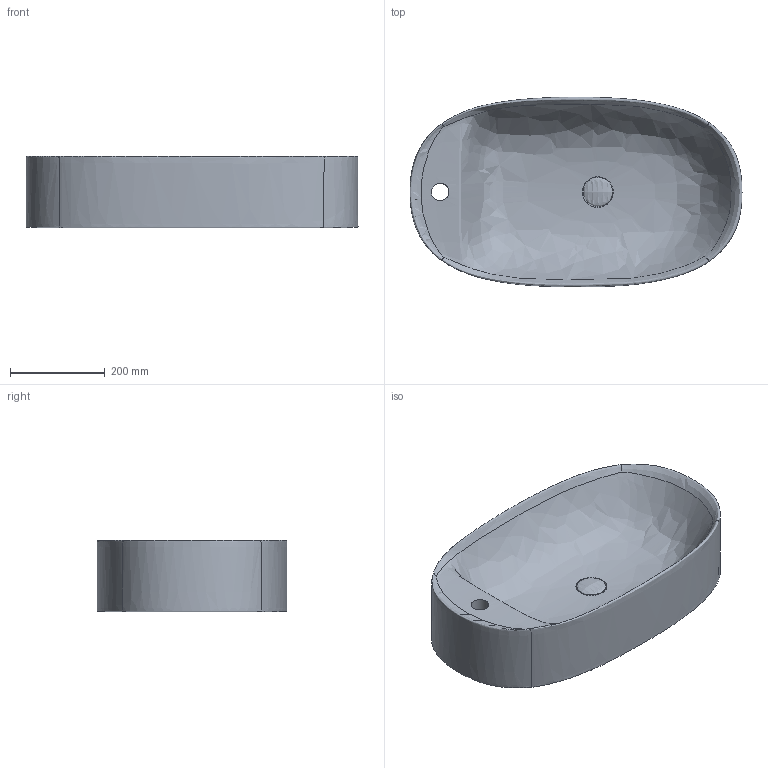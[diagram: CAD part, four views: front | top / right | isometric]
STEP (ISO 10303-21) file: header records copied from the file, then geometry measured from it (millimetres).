
FILE_DESCRIPTION(/* description */ (''),/* implementation_level */ '2;1');
FILE_NAME(/* name */ 'ART540~1',/* time_stamp */ '2024-09-09T16:12:31+02:00',/* author */ (''),/* organization */ (''),/* preprocessor_version */ 'ST-DEVELOPER v16.5',/* originating_system */ '',/* authorisation */ '');
FILE_SCHEMA (('CONFIG_CONTROL_DESIGN'));
Length unit declared in the file: millimetre
Products named in the file (1): Document
Bounding box: 700.73 x 400.89 x 150.04 mm (x, y, z)
Volume: 17932498.1 mm3; surface area: 856010 mm2
Topology: 2 solids, 2 shells, 15 faces, 36 edges, 22 vertices
Faces by surface type: bspline 8, cylinder 6, plane 1
Entity records: 3983 total; most frequent: CARTESIAN_POINT 3689, ORIENTED_EDGE 64, EDGE_CURVE 32, VERTEX_POINT 22, EDGE_LOOP 20, ADVANCED_FACE 15, FACE_OUTER_BOUND 15, DIRECTION 11
